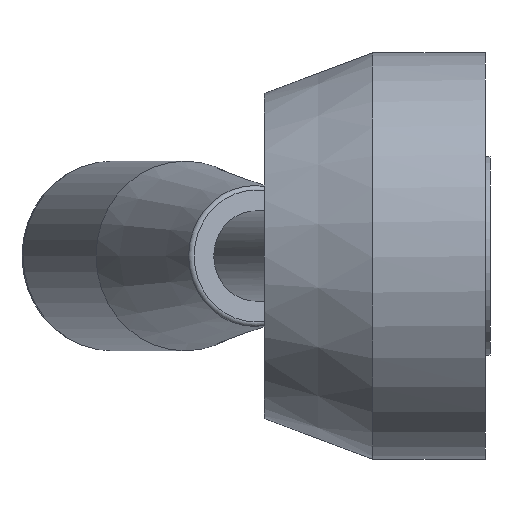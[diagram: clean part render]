
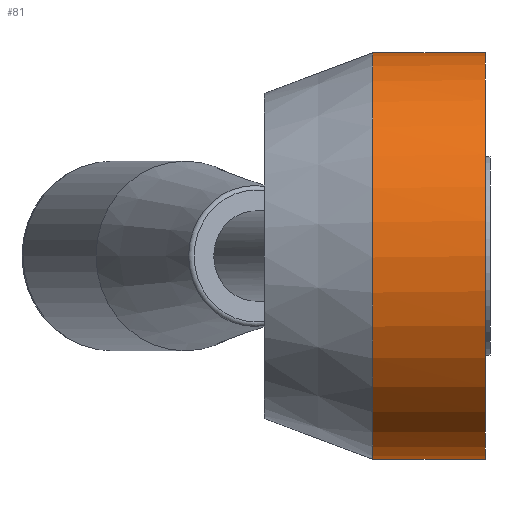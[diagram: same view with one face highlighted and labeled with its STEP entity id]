
A CAD part, left-side view. The second image highlights one B-rep face of the part: STEP entity #81.
In plain terms, the highlighted cylindrical face has radius 22.5 mm (diameter 45 mm), a full revolution.
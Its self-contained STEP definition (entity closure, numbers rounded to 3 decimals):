
#81 = ADVANCED_FACE( '', ( #135, #136 ), #137, .T. );
#135 = FACE_OUTER_BOUND( '', #236, .T. );
#136 = FACE_OUTER_BOUND( '', #237, .T. );
#137 = CYLINDRICAL_SURFACE( '', #238, 22.5 );
#236 = EDGE_LOOP( '', ( #369 ) );
#237 = EDGE_LOOP( '', ( #370, #371, #372, #373 ) );
#238 = AXIS2_PLACEMENT_3D( '', #374, #375, #376 );
#369 = ORIENTED_EDGE( '', *, *, #596, .F. );
#370 = ORIENTED_EDGE( '', *, *, #584, .F. );
#371 = ORIENTED_EDGE( '', *, *, #603, .T. );
#372 = ORIENTED_EDGE( '', *, *, #573, .F. );
#373 = ORIENTED_EDGE( '', *, *, #604, .F. );
#374 = CARTESIAN_POINT( '', ( 0., 0., 0. ) );
#375 = DIRECTION( '', ( 0., 1., 0. ) );
#376 = DIRECTION( '', ( 0., 0., -1. ) );
#573 = EDGE_CURVE( '', #644, #645, #646, .F. );
#584 = EDGE_CURVE( '', #663, #665, #666, .T. );
#596 = EDGE_CURVE( '', #688, #688, #689, .T. );
#603 = EDGE_CURVE( '', #663, #645, #702, .T. );
#604 = EDGE_CURVE( '', #665, #644, #703, .T. );
#644 = VERTEX_POINT( '', #763 );
#645 = VERTEX_POINT( '', #764 );
#646 = LINE( '', #765, #766 );
#663 = VERTEX_POINT( '', #797 );
#665 = VERTEX_POINT( '', #806 );
#666 = LINE( '', #807, #808 );
#688 = VERTEX_POINT( '', #834 );
#689 = CIRCLE( '', #835, 22.5 );
#702 = CIRCLE( '', #848, 22.5 );
#703 = CIRCLE( '', #849, 22.5 );
#763 = CARTESIAN_POINT( '', ( 16.955, 2., -14.791 ) );
#764 = CARTESIAN_POINT( '', ( 16.955, 13., -14.791 ) );
#765 = CARTESIAN_POINT( '', ( 16.955, 0., -14.791 ) );
#766 = VECTOR( '', #924, 1000. );
#797 = CARTESIAN_POINT( '', ( 16.955, 13., 14.791 ) );
#806 = CARTESIAN_POINT( '', ( 16.955, 2., 14.791 ) );
#807 = CARTESIAN_POINT( '', ( 16.955, 0., 14.791 ) );
#808 = VECTOR( '', #935, 1000. );
#834 = CARTESIAN_POINT( '', ( 0., 0.5, -22.5 ) );
#835 = AXIS2_PLACEMENT_3D( '', #961, #962, #963 );
#848 = AXIS2_PLACEMENT_3D( '', #982, #983, #984 );
#849 = AXIS2_PLACEMENT_3D( '', #985, #986, #987 );
#924 = DIRECTION( '', ( 0., -1., 0. ) );
#935 = DIRECTION( '', ( 0., -1., 0. ) );
#961 = CARTESIAN_POINT( '', ( 0., 0.5, 0. ) );
#962 = DIRECTION( '', ( 0., -1., 0. ) );
#963 = DIRECTION( '', ( 0., 0., -1. ) );
#982 = CARTESIAN_POINT( '', ( 0., 13., 0. ) );
#983 = DIRECTION( '', ( 0., -1., 0. ) );
#984 = DIRECTION( '', ( 0., 0., -1. ) );
#985 = CARTESIAN_POINT( '', ( 0., 2., 0. ) );
#986 = DIRECTION( '', ( 0., 1., 0. ) );
#987 = DIRECTION( '', ( 0., 0., 1. ) );
